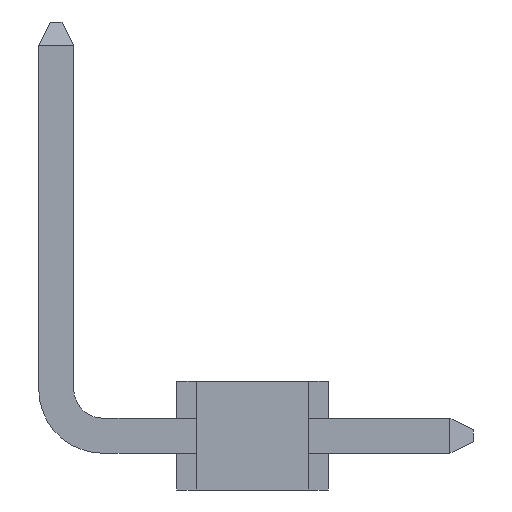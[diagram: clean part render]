
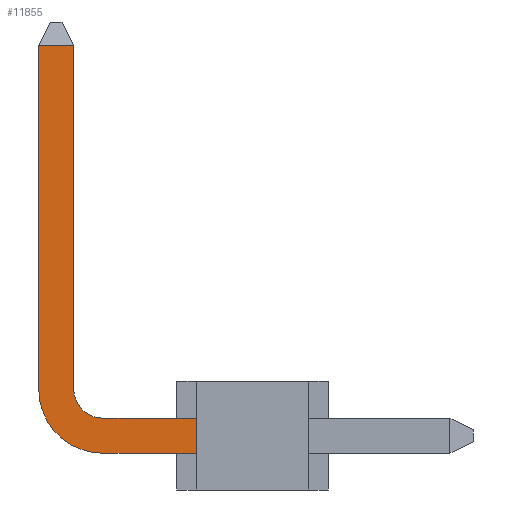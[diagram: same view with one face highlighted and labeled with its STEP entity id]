
A CAD part, left-side view. The second image highlights one B-rep face of the part: STEP entity #11855.
In plain terms, the highlighted planar face has unit normal (-1, 0, 0).
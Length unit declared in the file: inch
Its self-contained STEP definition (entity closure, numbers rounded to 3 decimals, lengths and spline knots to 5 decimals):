
#25=DIRECTION('',(0.,0.,-1.));
#26=VECTOR('',#25,0.03);
#27=CARTESIAN_POINT('',(-0.665,0.048,0.015));
#28=LINE('',#27,#26);
#4085=DIRECTION('',(0.,1.,0.));
#4086=VECTOR('',#4085,0.03);
#4087=CARTESIAN_POINT('',(-0.665,0.153,0.334));
#4088=LINE('',#4087,#4086);
#4089=DIRECTION('',(0.,0.,-1.));
#4090=VECTOR('',#4089,0.294);
#4091=CARTESIAN_POINT('',(-0.665,0.153,0.334));
#4092=LINE('',#4091,#4090);
#4093=CARTESIAN_POINT('',(-0.665,0.128,0.04));
#4094=DIRECTION('',(-1.,0.,0.));
#4095=DIRECTION('',(0.,1.,0.));
#4096=AXIS2_PLACEMENT_3D('',#4093,#4094,#4095);
#4098=DIRECTION('',(0.,-1.,0.));
#4099=VECTOR('',#4098,0.08);
#4100=CARTESIAN_POINT('',(-0.665,0.128,0.015));
#4101=LINE('',#4100,#4099);
#4102=DIRECTION('',(0.,1.,0.));
#4103=VECTOR('',#4102,0.08);
#4104=CARTESIAN_POINT('',(-0.665,0.048,-0.015));
#4105=LINE('',#4104,#4103);
#4106=CARTESIAN_POINT('',(-0.665,0.128,0.04));
#4107=DIRECTION('',(1.,0.,0.));
#4108=DIRECTION('',(0.,0.,-1.));
#4109=AXIS2_PLACEMENT_3D('',#4106,#4107,#4108);
#4111=DIRECTION('',(0.,0.,1.));
#4112=VECTOR('',#4111,0.294);
#4113=CARTESIAN_POINT('',(-0.665,0.183,0.04));
#4114=LINE('',#4113,#4112);
#5529=CARTESIAN_POINT('',(-0.665,0.128,-0.015));
#5530=CARTESIAN_POINT('',(-0.665,0.183,0.04));
#5531=VERTEX_POINT('',#5529);
#5532=VERTEX_POINT('',#5530);
#5533=CARTESIAN_POINT('',(-0.665,0.153,0.04));
#5534=CARTESIAN_POINT('',(-0.665,0.128,0.015));
#5535=VERTEX_POINT('',#5533);
#5536=VERTEX_POINT('',#5534);
#5545=CARTESIAN_POINT('',(-0.665,0.048,0.015));
#5546=CARTESIAN_POINT('',(-0.665,0.048,-0.015));
#5547=VERTEX_POINT('',#5545);
#5548=VERTEX_POINT('',#5546);
#5562=CARTESIAN_POINT('',(-0.665,0.153,0.334));
#5564=VERTEX_POINT('',#5562);
#5573=CARTESIAN_POINT('',(-0.665,0.183,0.334));
#5574=VERTEX_POINT('',#5573);
#11833=CARTESIAN_POINT('',(-0.665,0.,0.));
#11834=DIRECTION('',(1.,0.,0.));
#11835=DIRECTION('',(0.,0.,-1.));
#11836=AXIS2_PLACEMENT_3D('',#11833,#11834,#11835);
#11837=PLANE('',#11836);
#11839=ORIENTED_EDGE('',*,*,#11838,.F.);
#11841=ORIENTED_EDGE('',*,*,#11840,.T.);
#11843=ORIENTED_EDGE('',*,*,#11842,.T.);
#11845=ORIENTED_EDGE('',*,*,#11844,.T.);
#11846=ORIENTED_EDGE('',*,*,#5623,.T.);
#11848=ORIENTED_EDGE('',*,*,#11847,.T.);
#11850=ORIENTED_EDGE('',*,*,#11849,.T.);
#11852=ORIENTED_EDGE('',*,*,#11851,.T.);
#11853=EDGE_LOOP('',(#11839,#11841,#11843,#11845,#11846,#11848,#11850,#11852));
#11854=FACE_OUTER_BOUND('',#11853,.F.);
#11855=ADVANCED_FACE('',(#11854),#11837,.F.);
#4097=CIRCLE('',#4096,0.025);
#4110=CIRCLE('',#4109,0.055);
#5623=EDGE_CURVE('',#5547,#5548,#28,.T.);
#11838=EDGE_CURVE('',#5564,#5574,#4088,.T.);
#11840=EDGE_CURVE('',#5564,#5535,#4092,.T.);
#11842=EDGE_CURVE('',#5535,#5536,#4097,.T.);
#11844=EDGE_CURVE('',#5536,#5547,#4101,.T.);
#11847=EDGE_CURVE('',#5548,#5531,#4105,.T.);
#11849=EDGE_CURVE('',#5531,#5532,#4110,.T.);
#11851=EDGE_CURVE('',#5532,#5574,#4114,.T.);
